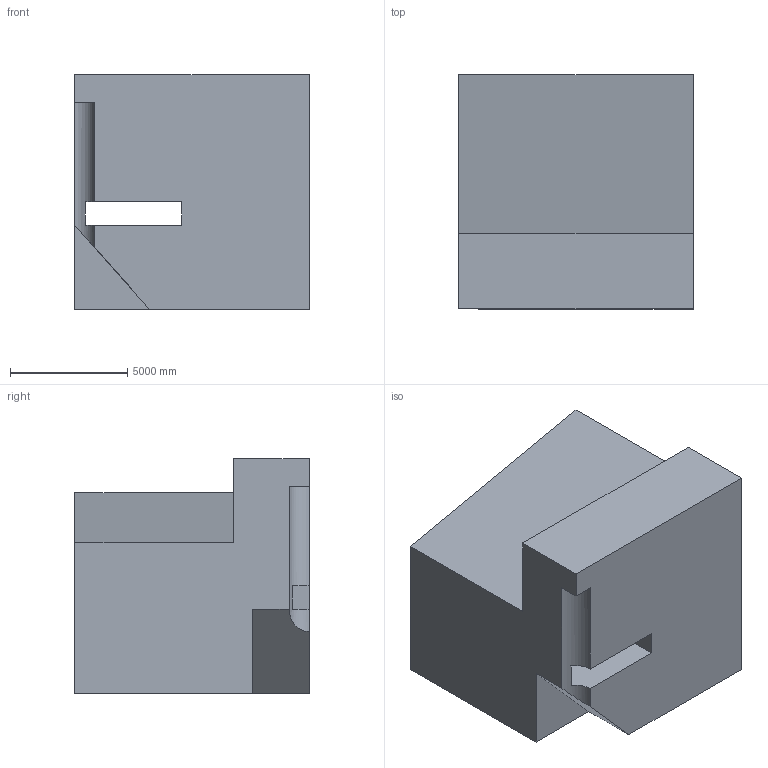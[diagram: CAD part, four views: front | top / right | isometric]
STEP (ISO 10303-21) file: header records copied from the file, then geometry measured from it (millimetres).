
FILE_DESCRIPTION (( 'STEP AP203' ), '1' );
FILE_NAME ('130.STEP', '2022-09-05T15:38:52', ( 'user' ), ( '' ), 'SwSTEP 2.0', 'SolidWorks 2021', '' );
FILE_SCHEMA (( 'CONFIG_CONTROL_DESIGN' ));
Length unit declared in the file: centimetre
Products named in the file (1): 130
Bounding box: 10000 x 10000 x 10000 mm (x, y, z)
Volume: 771387596320.3 mm3; surface area: 653767732.2 mm2
Topology: 1 solids, 1 shells, 16 faces, 45 edges, 30 vertices
Faces by surface type: plane 15, cylinder 1
Entity records: 593 total; most frequent: CARTESIAN_POINT 95, ORIENTED_EDGE 90, DIRECTION 81, EDGE_CURVE 45, VECTOR 41, LINE 41, VERTEX_POINT 30, AXIS2_PLACEMENT_3D 20
